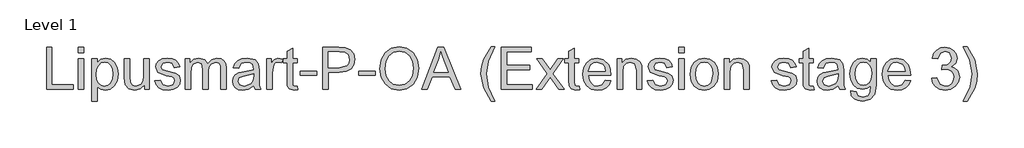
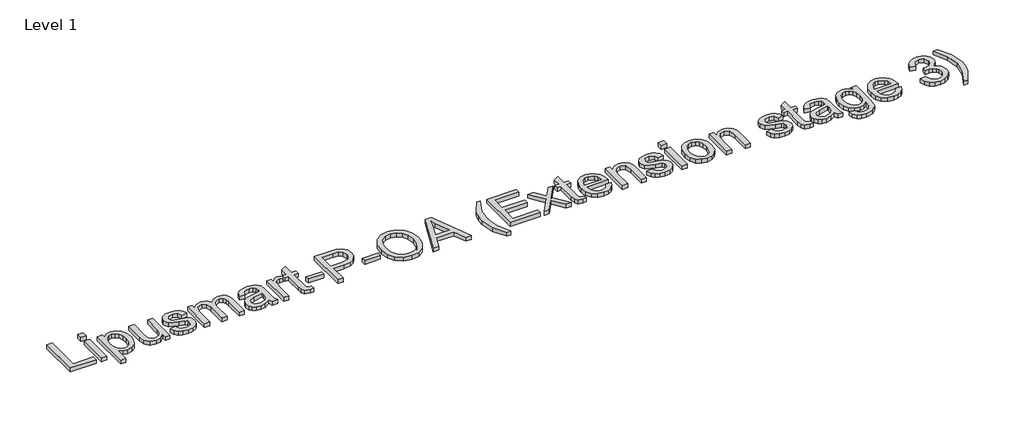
# One storey, part 2 of 3: 1 proxy.
"""IFC4 building model written with IfcOpenShell, lengths in millimetres."""

from ifc_helpers import new_model, si_unit, origin, origin_with_axes, place, context, project, spatial, polyline, outline, extrude, element, save

model = new_model("IFC4")

# Units and contexts
model_context = context("Model", 3, world=origin())
ifc_project = project(units=[si_unit("LENGTHUNIT", "METRE", prefix="MILLI")], contexts=[model_context])

# Site, building, storey
site = spatial("IfcSite", under=ifc_project)
building = spatial("IfcBuilding", under=site)
storey = spatial("IfcBuildingStorey", under=building, Name="Level 1", Elevation=0.0)

# Proxy
placement = place(None, origin())
element("IfcBuildingElementProxy", 1, Name="100mm ACO", ObjectType="100mm ACO", at=placement, inside=storey, context=model_context, shape_type="SweptSolid", body=[
    extrude(outline(polyline([(-4134.7103315, 6850.0), (-4197.6732944, 6850.0), (-4197.6732944, 6950.0), (-4184.7103315, 6950.0), (-4184.7103315, 6861.1111111), (-4134.7103315, 6861.1111111), (-4134.7103315, 6850.0)])), origin_with_axes(), (0.0, 0.0, 1.0), 10.0),
    extrude(outline(polyline([(-4108.7844056, 6850.0), (-4121.7473685, 6850.0), (-4121.7473685, 6922.2222222), (-4108.7844056, 6922.2222222), (-4108.7844056, 6850.0)])), origin_with_axes(), (0.0, 0.0, 1.0), 10.0),
    extrude(outline(polyline([(-4108.7844056, 6937.037037), (-4121.7473685, 6937.037037), (-4121.7473685, 6950.0), (-4108.7844056, 6950.0), (-4108.7844056, 6937.037037)])), origin_with_axes(), (0.0, 0.0, 1.0), 10.0),
    extrude(outline(polyline([(-4077.1727157, 6913.5127315), (-4068.7164079, 6921.4337384), (-4057.0482944, 6924.0740741), (-4044.7219056, 6921.484375), (-4035.2890352, 6913.7152778), (-4029.2994519, 6901.7867477), (-4027.3029241, 6886.71875), (-4029.5598685, 6870.8297164), (-4036.3307019, 6858.5792824), (-4046.3856787, 6850.7559317), (-4058.4950537, 6848.1481481), (-4068.8683176, 6850.2748843), (-4076.9557019, 6856.6550926), (-4077.3029241, 6822.2222222), (-4090.265887, 6822.2222222), (-4090.265887, 6922.2222222), (-4077.3029241, 6922.2222222), (-4077.1727157, 6913.5127315)]), holes=[polyline([(-4059.9128778, 6857.4074074), (-4052.1401637, 6859.233941), (-4045.8359102, 6864.7135417), (-4041.6583928, 6873.8100405), (-4040.265887, 6886.4872685), (-4041.6077562, 6898.5640914), (-4045.6333639, 6907.4797454), (-4051.7495387, 6912.9810475), (-4059.3631093, 6914.8148148), (-4067.2443303, 6912.7712674), (-4073.5847528, 6906.640625), (-4077.7622701, 6897.2547743), (-4079.1547759, 6885.4456019), (-4077.8201405, 6873.33261), (-4073.8162343, 6864.5399306), (-4067.6711243, 6859.1905382), (-4059.9128778, 6857.4074074)])]), origin_with_axes(), (0.0, 0.0, 1.0), 10.0),
    extrude(outline(polyline([(-3953.22885, 6850.0), (-3964.3399611, 6850.0), (-3964.3399611, 6860.5034722), (-3974.5830167, 6851.2369792), (-3987.5459796, 6848.1481481), (-4001.66635, 6851.6637731), (-4010.3179704, 6861.3425926), (-4012.4881093, 6877.34375), (-4012.4881093, 6922.2222222), (-3999.5251463, 6922.2222222), (-3999.5251463, 6881.25), (-3998.6281556, 6867.1585648), (-3993.9406556, 6860.15625), (-3984.9128778, 6857.4074074), (-3972.1669287, 6862.3263889), (-3967.6855919, 6869.8784722), (-3966.191813, 6882.6967593), (-3966.191813, 6922.2222222), (-3953.22885, 6922.2222222), (-3953.22885, 6850.0)])), origin_with_axes(), (0.0, 0.0, 1.0), 10.0),
    extrude(outline(polyline([(-3893.9695907, 6901.8518519), (-3898.7583639, 6911.5740741), (-3909.8260722, 6914.8148148), (-3921.1397296, 6912.037037), (-3925.4510722, 6903.9641204), (-3922.6009565, 6896.8171296), (-3909.160563, 6892.9398148), (-3891.437762, 6888.7731481), (-3882.3955167, 6882.4508102), (-3879.1547759, 6871.1226852), (-3881.1657713, 6862.1925637), (-3887.1987574, 6854.7887731), (-3896.5954588, 6849.8083044), (-3908.6976, 6848.1481481), (-3921.1722817, 6849.5442708), (-3930.5870676, 6853.7326389), (-3936.9491914, 6860.7060185), (-3940.265887, 6870.4571759), (-3927.3029241, 6872.2222222), (-3921.7039657, 6861.0966435), (-3908.6976, 6857.4074074), (-3896.4001463, 6861.2413194), (-3892.1177389, 6870.5729167), (-3894.0419287, 6876.5480324), (-3898.8451694, 6879.9189815), (-3912.4302389, 6882.8125), (-3933.3648454, 6890.625), (-3938.4140352, 6903.2118056), (-3936.5440988, 6911.4981192), (-3930.9342898, 6918.1857639), (-3922.1633118, 6922.6019965), (-3910.8098685, 6924.0740741), (-3898.8777215, 6922.7864583), (-3889.9331324, 6918.9236111), (-3883.9761012, 6912.4927662), (-3881.0066278, 6903.5011574), (-3893.9695907, 6901.8518519)])), origin_with_axes(), (0.0, 0.0, 1.0), 10.0),
    extrude(outline(polyline([(-3769.8955167, 6850.0), (-3782.8584796, 6850.0), (-3782.8584796, 6896.7013889), (-3783.5095213, 6905.5121528), (-3786.894938, 6911.9936343), (-3795.41635, 6914.8148148), (-3807.4244519, 6909.6643519), (-3811.2221949, 6902.9079861), (-3812.4881093, 6892.9398148), (-3812.4881093, 6850.0), (-3825.4510722, 6850.0), (-3825.4510722, 6898.0902778), (-3828.6339426, 6911.255787), (-3837.6617204, 6914.8148148), (-3850.1906556, 6909.2447917), (-3853.8581903, 6901.2478299), (-3855.0807019, 6888.3969907), (-3855.0807019, 6850.0), (-3868.0436648, 6850.0), (-3868.0436648, 6922.2222222), (-3856.9325537, 6922.2222222), (-3856.9325537, 6912.3263889), (-3847.5503199, 6921.1371528), (-3834.9996833, 6924.0740741), (-3821.8197065, 6920.9056713), (-3814.3399611, 6911.3715278), (-3804.8202852, 6920.8984375), (-3792.2334796, 6924.0740741), (-3782.4606208, 6922.5549769), (-3775.4800074, 6917.9976852), (-3771.2916394, 6910.4021991), (-3769.8955167, 6899.7685185), (-3769.8955167, 6850.0)])), origin_with_axes(), (0.0, 0.0, 1.0), 10.0),
    extrude(outline(polyline([(-3688.4140352, 6850.0), (-3701.3769981, 6850.0), (-3705.0807019, 6858.7384259), (-3717.5734681, 6850.7957176), (-3731.035563, 6848.1481481), (-3741.0218187, 6849.5949074), (-3748.6426231, 6853.9351852), (-3753.4711822, 6860.6481481), (-3755.0807019, 6869.212963), (-3753.5037343, 6877.520978), (-3748.7728315, 6884.2158565), (-3740.1429125, 6889.1095197), (-3726.8688963, 6892.0138889), (-3715.5263037, 6893.75), (-3705.0807019, 6896.2962963), (-3705.4134565, 6904.3258102), (-3707.3521139, 6909.2013889), (-3712.5170444, 6913.2667824), (-3722.0945907, 6914.8148148), (-3734.1750306, 6911.6753472), (-3740.265887, 6900.0), (-3753.22885, 6901.5914352), (-3749.6734391, 6911.400463), (-3743.000262, 6918.431713), (-3733.2165525, 6922.6634838), (-3720.3295444, 6924.0740741), (-3701.0731787, 6920.2112269), (-3693.5210954, 6910.8940972), (-3692.1177389, 6896.8460648), (-3692.1177389, 6880.3240741), (-3691.5679704, 6860.0694444), (-3688.4140352, 6850.0)]), holes=[polyline([(-3705.0807019, 6882.4074074), (-3705.0807019, 6887.037037), (-3728.3590583, 6881.712963), (-3738.6780687, 6877.6548032), (-3742.1177389, 6869.4155093), (-3738.4140352, 6860.7928241), (-3727.7369519, 6857.4074074), (-3711.9238731, 6863.0787037), (-3706.7914947, 6870.7465278), (-3705.0807019, 6882.4074074)])]), origin_with_axes(), (0.0, 0.0, 1.0), 10.0),
    extrude(outline(polyline([(-3634.7103315, 6921.2384259), (-3638.7612574, 6912.962963), (-3647.2682019, 6914.8148148), (-3653.0624727, 6913.1872106), (-3657.2508407, 6908.3043981), (-3660.6362574, 6890.0752315), (-3660.6362574, 6850.0), (-3673.5992204, 6850.0), (-3673.5992204, 6922.2222222), (-3662.4881093, 6922.2222222), (-3662.4881093, 6911.5162037), (-3655.5581324, 6920.9346065), (-3647.1235259, 6924.0740741), (-3634.7103315, 6921.2384259)])), origin_with_axes(), (0.0, 0.0, 1.0), 10.0),
    extrude(outline(polyline([(-3599.5251463, 6848.9872685), (-3608.6107944, 6848.1481481), (-3620.1993361, 6851.0271991), (-3624.640887, 6858.3333333), (-3625.4510722, 6870.6597222), (-3625.4510722, 6912.962963), (-3634.7103315, 6912.962963), (-3634.7103315, 6922.2222222), (-3625.4510722, 6922.2222222), (-3625.4510722, 6940.5671296), (-3612.4881093, 6948.1481481), (-3612.4881093, 6922.2222222), (-3601.3769981, 6922.2222222), (-3601.3769981, 6912.962963), (-3612.4881093, 6912.962963), (-3612.4881093, 6868.0555556), (-3611.4464426, 6859.837963), (-3606.1513037, 6857.4074074), (-3601.1165815, 6857.4074074), (-3599.5251463, 6848.9872685)])), origin_with_axes(), (0.0, 0.0, 1.0), 10.0),
    extrude(outline(polyline([(-3555.0807019, 6883.3333333), (-3593.9695907, 6883.3333333), (-3593.9695907, 6892.5925926), (-3555.0807019, 6892.5925926), (-3555.0807019, 6883.3333333)])), origin_with_axes(), (0.0, 0.0, 1.0), 10.0),
    extrude(outline(polyline([(-3540.265887, 6950.0), (-3502.7080167, 6950.0), (-3487.4013037, 6949.1174769), (-3475.4800074, 6944.53125), (-3467.1611417, 6934.4762731), (-3464.3399611, 6921.1805556), (-3466.5643535, 6908.7492766), (-3473.2375306, 6899.0596065), (-3484.8152215, 6892.8204572), (-3501.7531556, 6890.7407407), (-3527.3029241, 6890.7407407), (-3527.3029241, 6850.0), (-3540.265887, 6850.0), (-3540.265887, 6950.0)]), holes=[polyline([(-3527.3029241, 6901.8518519), (-3501.2323222, 6901.8518519), (-3483.2852736, 6906.5899884), (-3478.7985115, 6912.5126591), (-3477.3029241, 6920.8043981), (-3480.4134565, 6931.7853009), (-3488.0523454, 6937.7170139), (-3501.5216741, 6938.8888889), (-3527.3029241, 6938.8888889), (-3527.3029241, 6901.8518519)])]), origin_with_axes(), (0.0, 0.0, 1.0), 10.0),
    extrude(outline(polyline([(-3416.191813, 6883.3333333), (-3455.0807019, 6883.3333333), (-3455.0807019, 6892.5925926), (-3416.191813, 6892.5925926), (-3416.191813, 6883.3333333)])), origin_with_axes(), (0.0, 0.0, 1.0), 10.0),
    extrude(outline(polyline([(-3358.6976, 6951.8518519), (-3340.2080167, 6948.2783565), (-3325.422137, 6937.5578704), (-3315.7216162, 6920.9852431), (-3312.4881093, 6899.8553241), (-3315.7397007, 6878.8158275), (-3325.494475, 6862.3408565), (-3340.2984391, 6851.6963252), (-3358.6976, 6848.1481481), (-3377.5705745, 6851.8265336), (-3392.3492204, 6862.8616898), (-3401.8978315, 6879.191985), (-3405.0807019, 6898.755787), (-3401.8544287, 6920.8369502), (-3392.1756093, 6937.6591435), (-3377.3535606, 6948.3036748), (-3358.6976, 6951.8518519)]), holes=[polyline([(-3358.8133407, 6859.2592593), (-3345.3729472, 6861.9429977), (-3334.7392667, 6869.994213), (-3327.802056, 6882.8269676), (-3325.4510722, 6899.8553241), (-3327.8056729, 6917.2634549), (-3334.869475, 6930.1359954), (-3345.4995387, 6938.0895544), (-3358.5529241, 6940.7407407), (-3371.8992782, 6938.1438079), (-3382.6559333, 6930.3530093), (-3389.7522875, 6917.1947338), (-3392.1177389, 6898.4953704), (-3389.8029241, 6882.6135706), (-3382.8584796, 6870.0954861), (-3372.2175653, 6861.968316), (-3358.8133407, 6859.2592593)])]), origin_with_axes(), (0.0, 0.0, 1.0), 10.0),
    extrude(outline(polyline([(-3212.0251463, 6850.0), (-3225.8272296, 6850.0), (-3237.8063963, 6879.6296296), (-3280.254313, 6879.6296296), (-3291.7705167, 6850.0), (-3305.5436648, 6850.0), (-3266.6837111, 6950.0), (-3252.5054704, 6950.0), (-3212.0251463, 6850.0)]), holes=[polyline([(-3242.3202852, 6890.7407407), (-3256.744475, 6927.4016204), (-3259.7103315, 6939.0625), (-3264.3688963, 6920.4861111), (-3275.9140352, 6890.7407407), (-3242.3202852, 6890.7407407)])]), origin_with_axes(), (0.0, 0.0, 1.0), 10.0),
    extrude(outline(polyline([(-3130.7751463, 6822.2222222), (-3140.0344056, 6822.2222222), (-3157.8584796, 6853.4577546), (-3164.3399611, 6887.0081019), (-3162.6147007, 6905.1468461), (-3157.4389194, 6921.947338), (-3140.0344056, 6951.8518519), (-3130.7751463, 6951.8518519), (-3147.2103315, 6917.3032407), (-3151.3769981, 6887.1238426), (-3146.2265352, 6854.6079282), (-3130.7751463, 6822.2222222)])), origin_with_axes(), (0.0, 0.0, 1.0), 10.0),
    extrude(outline(polyline([(-3042.1177389, 6850.0), (-3116.191813, 6850.0), (-3116.191813, 6950.0), (-3043.9695907, 6950.0), (-3043.9695907, 6938.8888889), (-3103.22885, 6938.8888889), (-3103.22885, 6907.4074074), (-3047.6732944, 6907.4074074), (-3047.6732944, 6896.2962963), (-3103.22885, 6896.2962963), (-3103.22885, 6861.1111111), (-3042.1177389, 6861.1111111), (-3042.1177389, 6850.0)])), origin_with_axes(), (0.0, 0.0, 1.0), 10.0),
    extrude(outline(polyline([(-2966.191813, 6850.0), (-2979.2415815, 6850.0), (-2999.4962111, 6878.2986111), (-3019.7508407, 6850.0), (-3032.8584796, 6850.0), (-3006.0934333, 6887.4131944), (-3031.0066278, 6922.2222222), (-3017.9568593, 6922.2222222), (-2999.5540815, 6896.556713), (-2981.1802389, 6922.2222222), (-2968.0436648, 6922.2222222), (-2992.9857944, 6887.3842593), (-2966.191813, 6850.0)])), origin_with_axes(), (0.0, 0.0, 1.0), 10.0),
    extrude(outline(polyline([(-2929.1547759, 6848.9872685), (-2938.2404241, 6848.1481481), (-2949.8289657, 6851.0271991), (-2954.2705167, 6858.3333333), (-2955.0807019, 6870.6597222), (-2955.0807019, 6912.962963), (-2964.3399611, 6912.962963), (-2964.3399611, 6922.2222222), (-2955.0807019, 6922.2222222), (-2955.0807019, 6940.5671296), (-2942.1177389, 6948.1481481), (-2942.1177389, 6922.2222222), (-2931.0066278, 6922.2222222), (-2931.0066278, 6912.962963), (-2942.1177389, 6912.962963), (-2942.1177389, 6868.0555556), (-2941.0760722, 6859.837963), (-2935.7809333, 6857.4074074), (-2930.7462111, 6857.4074074), (-2929.1547759, 6848.9872685)])), origin_with_axes(), (0.0, 0.0, 1.0), 10.0),
    extrude(outline(polyline([(-2855.0807019, 6883.3333333), (-2908.7844056, 6883.3333333), (-2906.7119229, 6872.2077546), (-2901.9991046, 6864.0625), (-2895.2174206, 6859.0711806), (-2886.9383407, 6857.4074074), (-2875.2629935, 6861.0966435), (-2868.0436648, 6872.2222222), (-2855.0807019, 6870.7175926), (-2859.4571486, 6861.0966435), (-2866.3943593, 6853.9930556), (-2875.6391509, 6849.609375), (-2886.9383407, 6848.1481481), (-2901.525291, 6850.6546586), (-2912.531512, 6858.1741898), (-2919.4434044, 6870.0339988), (-2921.7473685, 6885.5613426), (-2919.5265931, 6901.099537), (-2912.8642667, 6913.3969907), (-2902.1654819, 6921.4048032), (-2887.8353315, 6924.0740741), (-2872.6154241, 6920.6163194), (-2860.187762, 6908.8396991), (-2856.3574669, 6898.3036748), (-2855.0807019, 6883.3333333)]), holes=[polyline([(-2868.0436648, 6892.5925926), (-2870.1269981, 6902.7488426), (-2874.8723685, 6909.6064815), (-2888.1536185, 6914.8148148), (-2896.0095213, 6913.2667824), (-2902.3318593, 6908.6226852), (-2908.7844056, 6892.5925926), (-2868.0436648, 6892.5925926)])]), origin_with_axes(), (0.0, 0.0, 1.0), 10.0),
    extrude(outline(polyline([(-2781.0066278, 6850.0), (-2793.9695907, 6850.0), (-2793.9695907, 6894.9652778), (-2797.832438, 6910.5613426), (-2808.5818593, 6914.8148148), (-2818.6079009, 6912.0949074), (-2825.3208639, 6904.4270833), (-2827.3029241, 6890.4224537), (-2827.3029241, 6850.0), (-2840.265887, 6850.0), (-2840.265887, 6922.2222222), (-2829.1547759, 6922.2222222), (-2829.1547759, 6912.181713), (-2819.2589426, 6921.1082176), (-2806.0066278, 6924.0740741), (-2794.6351, 6922.0196759), (-2785.8388037, 6915.8709491), (-2781.8312806, 6907.1325231), (-2781.0066278, 6894.5891204), (-2781.0066278, 6850.0)])), origin_with_axes(), (0.0, 0.0, 1.0), 10.0),
    extrude(outline(polyline([(-2721.7473685, 6901.8518519), (-2726.5361417, 6911.5740741), (-2737.60385, 6914.8148148), (-2748.9175074, 6912.037037), (-2753.22885, 6903.9641204), (-2750.3787343, 6896.8171296), (-2736.9383407, 6892.9398148), (-2719.2155398, 6888.7731481), (-2710.1732944, 6882.4508102), (-2706.9325537, 6871.1226852), (-2708.9435491, 6862.1925637), (-2714.9765352, 6854.7887731), (-2724.3732366, 6849.8083044), (-2736.4753778, 6848.1481481), (-2748.9500595, 6849.5442708), (-2758.3648454, 6853.7326389), (-2764.7269692, 6860.7060185), (-2768.0436648, 6870.4571759), (-2755.0807019, 6872.2222222), (-2749.4817435, 6861.0966435), (-2736.4753778, 6857.4074074), (-2724.1779241, 6861.2413194), (-2719.8955167, 6870.5729167), (-2721.8197065, 6876.5480324), (-2726.6229472, 6879.9189815), (-2740.2080167, 6882.8125), (-2761.1426231, 6890.625), (-2766.191813, 6903.2118056), (-2764.3218766, 6911.4981192), (-2758.7120676, 6918.1857639), (-2749.9410896, 6922.6019965), (-2738.5876463, 6924.0740741), (-2726.6554993, 6922.7864583), (-2717.7109102, 6918.9236111), (-2711.7538789, 6912.4927662), (-2708.7844056, 6903.5011574), (-2721.7473685, 6901.8518519)])), origin_with_axes(), (0.0, 0.0, 1.0), 10.0),
    extrude(outline(polyline([(-2681.0066278, 6937.037037), (-2693.9695907, 6937.037037), (-2693.9695907, 6950.0), (-2681.0066278, 6950.0), (-2681.0066278, 6937.037037)])), origin_with_axes(), (0.0, 0.0, 1.0), 10.0),
    extrude(outline(polyline([(-2681.0066278, 6850.0), (-2693.9695907, 6850.0), (-2693.9695907, 6922.2222222), (-2681.0066278, 6922.2222222), (-2681.0066278, 6850.0)])), origin_with_axes(), (0.0, 0.0, 1.0), 10.0),
    extrude(outline(polyline([(-2632.8874148, 6924.0740741), (-2619.7110549, 6921.6796875), (-2609.0014194, 6914.4965278), (-2601.8942146, 6902.9007523), (-2599.5251463, 6887.2685185), (-2602.0895271, 6868.9959491), (-2609.7826694, 6857.0023148), (-2620.6876174, 6850.3616898), (-2632.8874148, 6848.1481481), (-2645.4778373, 6850.4231771), (-2656.281512, 6857.2482639), (-2663.7142377, 6869.0140336), (-2666.191813, 6886.1111111), (-2663.7974264, 6902.8284144), (-2656.6142667, 6914.6701389), (-2645.8937806, 6921.7230903), (-2632.8874148, 6924.0740741)]), holes=[polyline([(-2632.8874148, 6857.4074074), (-2624.0802678, 6859.4147859), (-2617.681975, 6865.4369213), (-2612.4881093, 6886.5740741), (-2613.9565699, 6898.8570602), (-2618.3619519, 6907.6967593), (-2624.9302389, 6913.0353009), (-2632.8874148, 6914.8148148), (-2641.0001174, 6913.0099826), (-2647.5141509, 6907.5954861), (-2651.8001752, 6898.6074942), (-2653.22885, 6886.0821759), (-2651.7748569, 6873.6002604), (-2647.4128778, 6864.6267361), (-2640.8735259, 6859.2122396), (-2632.8874148, 6857.4074074)])]), origin_with_axes(), (0.0, 0.0, 1.0), 10.0),
    extrude(outline(polyline([(-2525.4510722, 6850.0), (-2538.4140352, 6850.0), (-2538.4140352, 6894.9652778), (-2542.2768824, 6910.5613426), (-2553.0263037, 6914.8148148), (-2563.0523454, 6912.0949074), (-2569.7653083, 6904.4270833), (-2571.7473685, 6890.4224537), (-2571.7473685, 6850.0), (-2584.7103315, 6850.0), (-2584.7103315, 6922.2222222), (-2573.5992204, 6922.2222222), (-2573.5992204, 6912.181713), (-2563.703387, 6921.1082176), (-2550.4510722, 6924.0740741), (-2539.0795444, 6922.0196759), (-2530.2832481, 6915.8709491), (-2526.275725, 6907.1325231), (-2525.4510722, 6894.5891204), (-2525.4510722, 6850.0)])), origin_with_axes(), (0.0, 0.0, 1.0), 10.0),
    extrude(outline(polyline([(-2427.3029241, 6901.8518519), (-2432.0916972, 6911.5740741), (-2443.1594056, 6914.8148148), (-2454.473063, 6912.037037), (-2458.7844056, 6903.9641204), (-2455.9342898, 6896.8171296), (-2442.4938963, 6892.9398148), (-2424.7710954, 6888.7731481), (-2415.72885, 6882.4508102), (-2412.4881093, 6871.1226852), (-2414.4991046, 6862.1925637), (-2420.5320907, 6854.7887731), (-2429.9287921, 6849.8083044), (-2442.0309333, 6848.1481481), (-2454.505615, 6849.5442708), (-2463.9204009, 6853.7326389), (-2470.2825248, 6860.7060185), (-2473.5992204, 6870.4571759), (-2460.6362574, 6872.2222222), (-2455.0372991, 6861.0966435), (-2442.0309333, 6857.4074074), (-2429.7334796, 6861.2413194), (-2425.4510722, 6870.5729167), (-2427.375262, 6876.5480324), (-2432.1785028, 6879.9189815), (-2445.7635722, 6882.8125), (-2466.6981787, 6890.625), (-2471.7473685, 6903.2118056), (-2469.8774322, 6911.4981192), (-2464.2676231, 6918.1857639), (-2455.4966451, 6922.6019965), (-2444.1432019, 6924.0740741), (-2432.2110549, 6922.7864583), (-2423.2664657, 6918.9236111), (-2417.3094345, 6912.4927662), (-2414.3399611, 6903.5011574), (-2427.3029241, 6901.8518519)])), origin_with_axes(), (0.0, 0.0, 1.0), 10.0),
    extrude(outline(polyline([(-2371.7473685, 6848.9872685), (-2380.8330167, 6848.1481481), (-2392.4215583, 6851.0271991), (-2396.8631093, 6858.3333333), (-2397.6732944, 6870.6597222), (-2397.6732944, 6912.962963), (-2406.9325537, 6912.962963), (-2406.9325537, 6922.2222222), (-2397.6732944, 6922.2222222), (-2397.6732944, 6940.5671296), (-2384.7103315, 6948.1481481), (-2384.7103315, 6922.2222222), (-2373.5992204, 6922.2222222), (-2373.5992204, 6912.962963), (-2384.7103315, 6912.962963), (-2384.7103315, 6868.0555556), (-2383.6686648, 6859.837963), (-2378.3735259, 6857.4074074), (-2373.3388037, 6857.4074074), (-2371.7473685, 6848.9872685)])), origin_with_axes(), (0.0, 0.0, 1.0), 10.0),
    extrude(outline(polyline([(-2297.6732944, 6850.0), (-2310.6362574, 6850.0), (-2314.3399611, 6858.7384259), (-2326.8327273, 6850.7957176), (-2340.2948222, 6848.1481481), (-2350.281078, 6849.5949074), (-2357.9018824, 6853.9351852), (-2362.7304414, 6860.6481481), (-2364.3399611, 6869.212963), (-2362.7629935, 6877.520978), (-2358.0320907, 6884.2158565), (-2349.4021718, 6889.1095197), (-2336.1281556, 6892.0138889), (-2324.785563, 6893.75), (-2314.3399611, 6896.2962963), (-2314.6727157, 6904.3258102), (-2316.6113731, 6909.2013889), (-2321.7763037, 6913.2667824), (-2331.35385, 6914.8148148), (-2343.4342898, 6911.6753472), (-2349.5251463, 6900.0), (-2362.4881093, 6901.5914352), (-2358.9326984, 6911.400463), (-2352.2595213, 6918.431713), (-2342.4758118, 6922.6634838), (-2329.5888037, 6924.0740741), (-2310.332438, 6920.2112269), (-2302.7803546, 6910.8940972), (-2301.3769981, 6896.8460648), (-2301.3769981, 6880.3240741), (-2300.8272296, 6860.0694444), (-2297.6732944, 6850.0)]), holes=[polyline([(-2314.3399611, 6882.4074074), (-2314.3399611, 6887.037037), (-2337.6183176, 6881.712963), (-2347.937328, 6877.6548032), (-2351.3769981, 6869.4155093), (-2347.6732944, 6860.7928241), (-2336.9962111, 6857.4074074), (-2321.1831324, 6863.0787037), (-2316.0507539, 6870.7465278), (-2314.3399611, 6882.4074074)])]), origin_with_axes(), (0.0, 0.0, 1.0), 10.0),
    extrude(outline(polyline([(-2223.5992204, 6860.6481481), (-2226.6518824, 6838.0063657), (-2237.5170444, 6826.3744213), (-2256.1802389, 6822.2222222), (-2267.39624, 6823.6291956), (-2276.5650769, 6827.8501157), (-2282.6740178, 6835.2756076), (-2284.7103315, 6846.2962963), (-2271.7473685, 6844.2418981), (-2267.1756093, 6834.6788194), (-2255.9776926, 6831.4814815), (-2242.6675074, 6835.1707176), (-2237.5025769, 6844.1550926), (-2236.5621833, 6858.7673611), (-2245.3367782, 6852.1918403), (-2256.1513037, 6850.0), (-2268.5427968, 6852.6114005), (-2278.22885, 6860.4456019), (-2284.47885, 6872.2583912), (-2286.5621833, 6886.8055556), (-2284.5801231, 6901.4467593), (-2278.6339426, 6913.4259259), (-2269.1866046, 6921.412037), (-2256.7010722, 6924.0740741), (-2245.6261301, 6921.6941551), (-2236.8226, 6914.5543981), (-2236.5621833, 6922.2222222), (-2223.5992204, 6922.2222222), (-2223.5992204, 6860.6481481)]), holes=[polyline([(-2254.2126463, 6859.2592593), (-2247.0005514, 6860.865162), (-2240.6420444, 6865.6828704), (-2236.1932597, 6874.2766204), (-2234.7103315, 6887.2106481), (-2236.1245387, 6898.9981192), (-2240.3671602, 6907.6822917), (-2246.693115, 6913.031684), (-2254.3573222, 6914.8148148), (-2262.0793998, 6912.9882812), (-2268.2317435, 6907.5086806), (-2272.2573512, 6898.8534433), (-2273.5992204, 6887.5), (-2272.192247, 6874.7829861), (-2267.9713269, 6866.0300926), (-2261.71771, 6860.9519676), (-2254.2126463, 6859.2592593)])]), origin_with_axes(), (0.0, 0.0, 1.0), 10.0),
    extrude(outline(polyline([(-2142.1177389, 6883.3333333), (-2195.8214426, 6883.3333333), (-2193.74896, 6872.2077546), (-2189.0361417, 6864.0625), (-2182.2544576, 6859.0711806), (-2173.9753778, 6857.4074074), (-2162.3000306, 6861.0966435), (-2155.0807019, 6872.2222222), (-2142.1177389, 6870.7175926), (-2146.4941856, 6861.0966435), (-2153.4313963, 6853.9930556), (-2162.676188, 6849.609375), (-2173.9753778, 6848.1481481), (-2188.562328, 6850.6546586), (-2199.5685491, 6858.1741898), (-2206.4804414, 6870.0339988), (-2208.7844056, 6885.5613426), (-2206.5636301, 6901.099537), (-2199.9013037, 6913.3969907), (-2189.202519, 6921.4048032), (-2174.8723685, 6924.0740741), (-2159.6524611, 6920.6163194), (-2147.2247991, 6908.8396991), (-2143.3945039, 6898.3036748), (-2142.1177389, 6883.3333333)]), holes=[polyline([(-2155.0807019, 6892.5925926), (-2157.1640352, 6902.7488426), (-2161.9094056, 6909.6064815), (-2175.1906556, 6914.8148148), (-2183.0465583, 6913.2667824), (-2189.3688963, 6908.6226852), (-2195.8214426, 6892.5925926), (-2155.0807019, 6892.5925926)])]), origin_with_axes(), (0.0, 0.0, 1.0), 10.0),
    extrude(outline(polyline([(-2044.6351, 6903.6024306), (-2036.3053836, 6900.3653067), (-2030.2977157, 6894.5746528), (-2025.4510722, 6879.0509259), (-2027.9756671, 6866.7426215), (-2035.5494519, 6856.8431713), (-2046.6388616, 6850.3219039), (-2059.7103315, 6848.1481481), (-2071.9897007, 6850.0651042), (-2081.9180861, 6855.8159722), (-2088.8444461, 6864.7135417), (-2092.1177389, 6876.0706019), (-2079.1547759, 6877.7777778), (-2072.3260722, 6862.4855324), (-2059.2763037, 6857.4074074), (-2051.2070039, 6858.9337384), (-2044.4759565, 6863.5127315), (-2039.9295155, 6870.3052662), (-2038.4140352, 6878.4722222), (-2039.8354762, 6886.2304687), (-2044.0997991, 6892.5491898), (-2050.6572354, 6896.7484086), (-2058.9580167, 6898.1481481), (-2068.0436648, 6896.2962963), (-2066.5969056, 6907.4074074), (-2058.7265352, 6907.8993056), (-2052.2450537, 6910.3009259), (-2046.3133407, 6915.7696759), (-2043.9695907, 6924.5949074), (-2048.7583639, 6936.5162037), (-2059.8550074, 6940.7407407), (-2071.588225, 6935.9375), (-2077.3029241, 6922.2222222), (-2090.265887, 6924.4502315), (-2086.4283581, 6935.6372975), (-2079.719012, 6943.6197917), (-2070.7744229, 6948.4049479), (-2060.2311648, 6950.0), (-2048.7655977, 6948.1083623), (-2039.3688963, 6942.4334491), (-2033.0971949, 6934.0241609), (-2031.0066278, 6923.9293981), (-2034.4137458, 6911.8634259), (-2044.6351, 6903.6024306)])), origin_with_axes(), (0.0, 0.0, 1.0), 10.0),
    extrude(outline(polyline([(-2007.1640352, 6951.8518519), (-1989.3399611, 6920.6163194), (-1982.8584796, 6887.0081019), (-1984.58374, 6868.9127604), (-1989.7595213, 6852.1267361), (-2007.1640352, 6822.2222222), (-2016.4232944, 6822.2222222), (-1999.9881093, 6856.7418981), (-1995.8214426, 6886.8634259), (-2000.9719056, 6919.4444444), (-2016.4232944, 6951.8518519), (-2007.1640352, 6951.8518519)])), origin_with_axes(), (0.0, 0.0, 1.0), 10.0),
])

save(model, "model.ifc")
